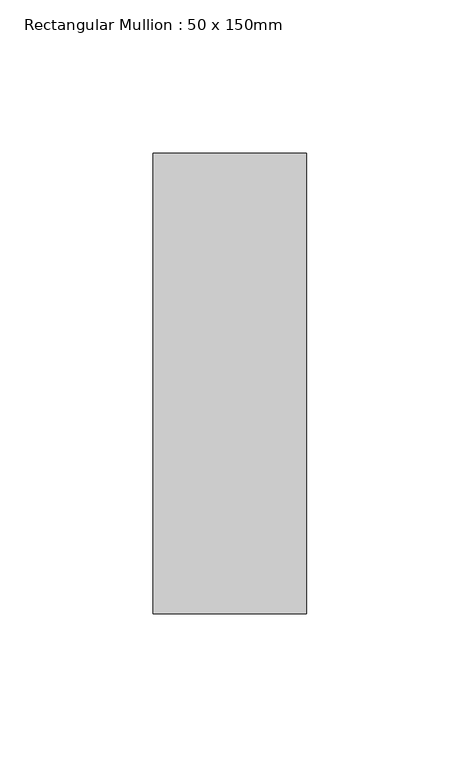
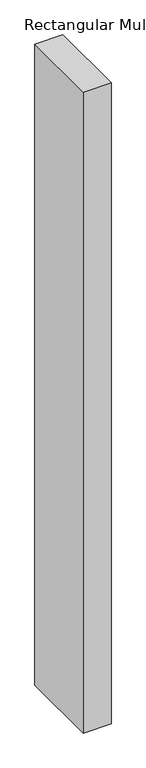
"""IFC4 building model written with IfcOpenShell, lengths in millimetres: member geometry, Rectangular Mullion : 50 x 150mm."""

from ifc_helpers import new_model, si_unit, frame, origin, place, context, project, spatial, polyline, outline, extrude, source, transform, mapped, element, save


def rectangular_mullion_50_x_150mm_e243c0e9(model_context):
    return source(origin(), model_context, "Body", "SweptSolid", [
        extrude(outline(polyline([(0.0, 75.0), (0.0, -75.0), (-50.0, -75.0), (-50.0, 75.0), (0.0, 75.0)])), frame((0.0, 0.0, -1215.5555556), z_axis=(0.0, 0.0, 1.0), x_axis=(1.0, 0.0, 0.0)), (0.0, 0.0, 1.0), 1215.5555556),
    ])


if __name__ == "__main__":
    model = new_model("IFC4")
    model_context = context("Model", 3, world=origin())
    ifc_project = project(units=[si_unit("LENGTHUNIT", "METRE", prefix="MILLI")], contexts=[model_context])
    site = spatial("IfcSite", under=ifc_project)
    building = spatial("IfcBuilding", under=site)
    placement = place(None, origin())
    rectangular_mullion_50_x_150mm_shape = rectangular_mullion_50_x_150mm_e243c0e9(model_context)
    element("IfcMember", 1, ObjectType="Rectangular Mullion : 50 x 150mm", at=placement, inside=building, context=model_context, shape_type="MappedRepresentation", body=[
        mapped(rectangular_mullion_50_x_150mm_shape, transform((0.0, 0.0, 0.0), x_axis=(1.0, 0.0, 0.0), y_axis=(0.0, 1.0, 0.0), z_axis=(0.0, 0.0, 1.0))),
    ])
    save(model, "model.ifc")
